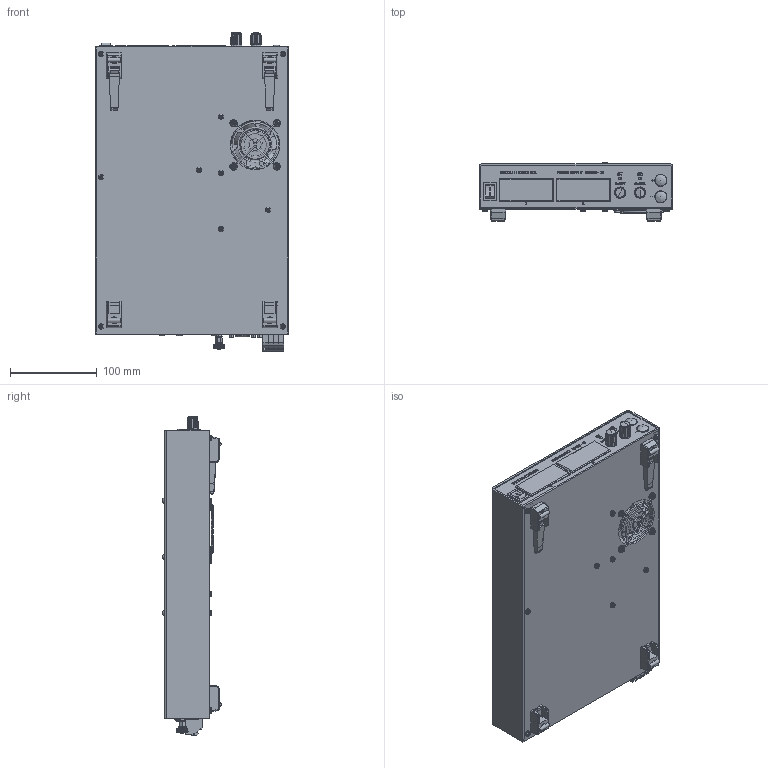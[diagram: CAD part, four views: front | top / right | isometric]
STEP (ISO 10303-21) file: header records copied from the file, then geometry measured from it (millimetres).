
FILE_DESCRIPTION(/* description */ (''),/* implementation_level */ '2;1');
FILE_NAME(/* name */ 'A:\Data\ES300\presentation\ES300-P531.stp',/* time_stamp */ '2021-01-04T13:13:20+01:00',/* author */ ('Delta'),/* organization */ (''),/* preprocessor_version */ 'ST-DEVELOPER v17.2',/* originating_system */ 'Autodesk Inventor 2019',/* authorisation */ '');
FILE_SCHEMA (('AUTOMOTIVE_DESIGN { 1 0 10303 214 3 1 1 }'));
Products named in the file (1): _Assembly ES300-P531_Shrinkwrap_2
Bounding box: 224 x 67.7 x 368.8 mm (x, y, z)
Surface area: 255809.1 mm2 (no closed solid volume)
Topology: 0 solids, 1 shells, 3607 faces, 9139 edges, 5799 vertices
Faces by surface type: plane 2084, cylinder 594, bspline 447, cone 291, torus 124, sphere 67
Full cylindrical faces by diameter (mm): 0.9 x9, 1.1 x9, 1.5 x8, 2 x4, 2.156 x4, 2.7 x4, 2.76 x4, 2.9 x3, 3 x5, 3.1 x6, 3.2 x5, 3.4 x4, 3.5 x124, 4 x3, 4.1 x4, 4.3 x9, 4.5 x2, 4.75 x4, 5 x1, 6 x38, 6.8 x4, 7.8 x2, 8 x4, 8.8 x3, 10.5 x1, 10.7 x2, 57 x2
Entity records: 121338 total; most frequent: CARTESIAN_POINT 34050, ORIENTED_EDGE 18180, DIRECTION 16158, EDGE_CURVE 9090, VERTEX_POINT 5799, AXIS2_PLACEMENT_3D 5579, LINE 5000, VECTOR 5000
